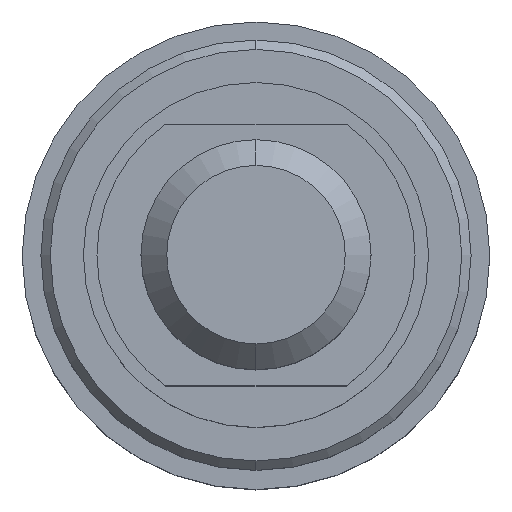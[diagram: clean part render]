
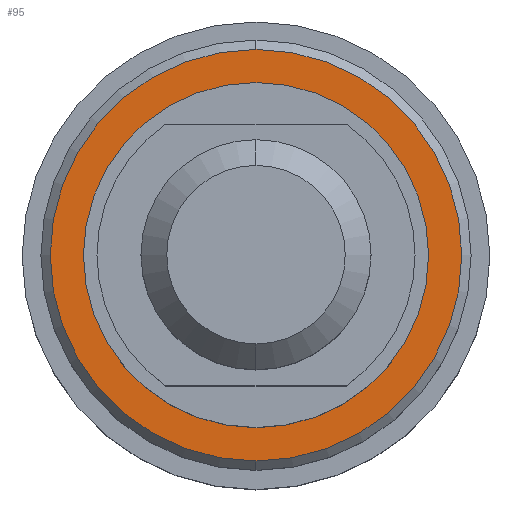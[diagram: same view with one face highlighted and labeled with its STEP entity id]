
A CAD part, top view. The second image highlights one B-rep face of the part: STEP entity #95.
In plain terms, the highlighted planar face has unit normal (0, 0, 1).
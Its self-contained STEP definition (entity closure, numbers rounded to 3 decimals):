
#66=FACE_BOUND('',#159,.F.);
#72=PLANE('',#555);
#95=ADVANCED_FACE('',(#66,#126),#72,.T.);
#126=FACE_OUTER_BOUND('',#160,.F.);
#159=EDGE_LOOP('',(#242,#243));
#160=EDGE_LOOP('',(#244,#245));
#242=ORIENTED_EDGE('',*,*,#389,.T.);
#243=ORIENTED_EDGE('',*,*,#388,.T.);
#244=ORIENTED_EDGE('',*,*,#397,.F.);
#245=ORIENTED_EDGE('',*,*,#395,.F.);
#388=EDGE_CURVE('',#479,#478,#440,.T.);
#389=EDGE_CURVE('',#478,#479,#441,.T.);
#395=EDGE_CURVE('',#484,#486,#447,.T.);
#397=EDGE_CURVE('',#486,#484,#449,.T.);
#440=CIRCLE('',#516,4.686);
#441=CIRCLE('',#517,4.686);
#447=CIRCLE('',#523,5.588);
#449=CIRCLE('',#525,5.588);
#478=VERTEX_POINT('',#751);
#479=VERTEX_POINT('',#752);
#484=VERTEX_POINT('',#757);
#486=VERTEX_POINT('',#759);
#516=AXIS2_PLACEMENT_3D('',#797,#610,#611);
#517=AXIS2_PLACEMENT_3D('',#798,#612,#613);
#523=AXIS2_PLACEMENT_3D('',#804,#624,#625);
#525=AXIS2_PLACEMENT_3D('',#806,#628,#629);
#555=AXIS2_PLACEMENT_3D('',#852,#704,#705);
#610=DIRECTION('',(0.,0.,1.));
#611=DIRECTION('',(0.,1.,0.));
#612=DIRECTION('',(0.,0.,1.));
#613=DIRECTION('',(0.,-1.,0.));
#624=DIRECTION('',(0.,0.,1.));
#625=DIRECTION('',(0.,1.,0.));
#628=DIRECTION('',(0.,0.,1.));
#629=DIRECTION('',(0.,-1.,0.));
#704=DIRECTION('',(0.,0.,1.));
#705=DIRECTION('',(1.,0.,0.));
#751=CARTESIAN_POINT('',(255.118,857.67,236.435));
#752=CARTESIAN_POINT('',(255.118,867.043,236.435));
#757=CARTESIAN_POINT('',(255.118,867.945,236.435));
#759=CARTESIAN_POINT('',(255.118,856.769,236.435));
#797=CARTESIAN_POINT('',(255.118,862.357,236.435));
#798=CARTESIAN_POINT('',(255.118,862.357,236.435));
#804=CARTESIAN_POINT('',(255.118,862.357,236.435));
#806=CARTESIAN_POINT('',(255.118,862.357,236.435));
#852=CARTESIAN_POINT('',(249.276,856.515,236.435));
